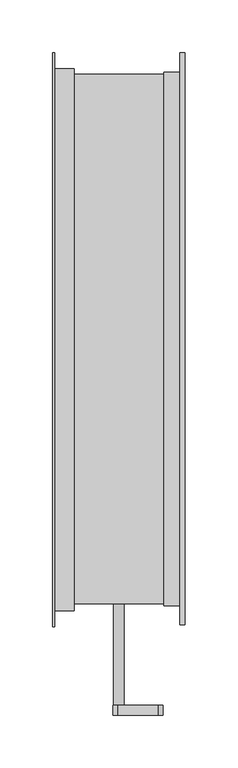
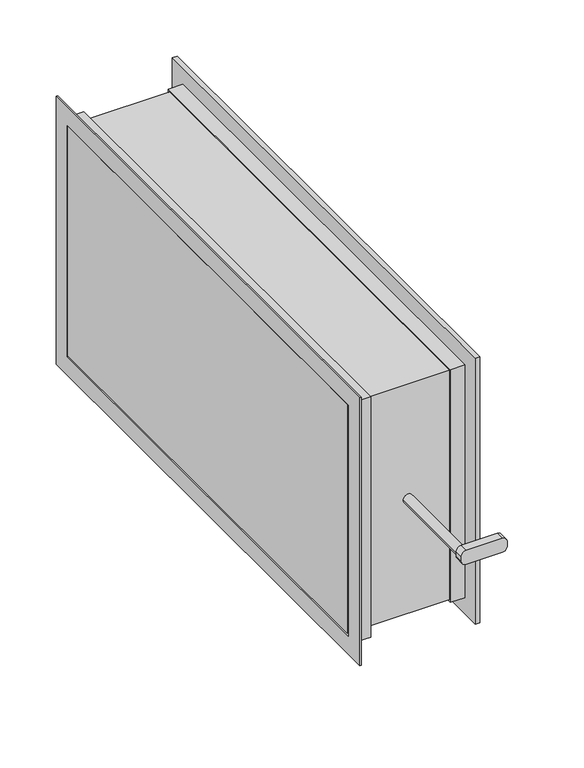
"""IFC4 building model written with IfcOpenShell, lengths in millimetres: damper geometry, АВК : АВК 500х250К8."""

import ifcopenshell
import ifcopenshell.guid

model = None  # the IFC model being written
_history = None  # IfcOwnerHistory: only IFC2X3 demands one
_inside = {}  # id of a spatial element -> (the spatial element, [elements in it])
_under = {}  # id of a project, library or spatial element -> (it, [spatial elements below it])
_declared = {}  # id of a project -> (the project, [libraries it declares])
_typed = {}  # id of a type object -> (the type object, [elements of that type])
_made_of = {}  # id of a material, layer set ... -> (it, [elements and type objects made of it])


def new_model(schema):
    """Start an empty IFC model of exactly this schema.

    Asked for "IFC4X3", IfcOpenShell would pick the latest addendum, in which some entities
    have other attributes; the version numbers below select the first issue.
    IFC2X3 requires an IfcOwnerHistory on every rooted entity: one is made here for all.
    """
    global model, _history
    if schema == "IFC4X3":
        model = ifcopenshell.file(schema_version=(4, 3, 0, 0))
    else:
        model = ifcopenshell.file(schema=schema)
    _inside.clear()
    _under.clear()
    _declared.clear()
    _typed.clear()
    _made_of.clear()
    _history = None
    if model.schema == "IFC2X3":
        org = make("IfcOrganization", Name="unknown")
        user = make(
            "IfcPersonAndOrganization",
            ThePerson=make("IfcPerson", FamilyName="unknown"),
            TheOrganization=org,
        )
        app = make(
            "IfcApplication",
            ApplicationDeveloper=org,
            Version="unknown",
            ApplicationFullName="unknown",
            ApplicationIdentifier="unknown",
        )
        _history = make(
            "IfcOwnerHistory",
            OwningUser=user,
            OwningApplication=app,
            ChangeAction="ADDED",
            CreationDate=0,
        )
    return model


def make(cls, **values):
    """One entity of the class cls with the attributes given. An attribute that is None is left unset."""
    return model.create_entity(
        cls, **{name: value for name, value in values.items() if value is not None}
    )


def rooted(cls, **values):
    """An entity with a GlobalId (a new one), such as an element, a storey or a relation."""
    return make(cls, GlobalId=ifcopenshell.guid.new(), OwnerHistory=_history, **values)


def si_unit(unit_type, name, prefix=None):
    """IfcSIUnit, for example si_unit("LENGTHUNIT", "METRE", prefix="MILLI")."""
    return make("IfcSIUnit", UnitType=unit_type, Prefix=prefix, Name=name)


def assignment(units):
    """IfcUnitAssignment: the units of a project."""
    return None if units is None else make("IfcUnitAssignment", Units=units)


def point(xyz):
    """IfcCartesianPoint."""
    return None if xyz is None else make("IfcCartesianPoint", Coordinates=xyz)


def direction(xyz):
    """IfcDirection."""
    return None if xyz is None else make("IfcDirection", DirectionRatios=xyz)


def frame(location, z_axis=None, x_axis=None):
    """IfcAxis2Placement3D, a coordinate frame: its origin and axes. An axis left out is left unset."""
    return make(
        "IfcAxis2Placement3D",
        Location=point(location),
        Axis=direction(z_axis),
        RefDirection=direction(x_axis),
    )


def origin():
    """The frame at (0, 0, 0) with its axes left unset."""
    return frame((0.0, 0.0, 0.0))


def place(relative_to, where):
    """IfcLocalPlacement: puts the frame where relative to a parent placement (None: the world)."""
    return make(
        "IfcLocalPlacement", PlacementRelTo=relative_to, RelativePlacement=where
    )


def context(
    kind, dimensions, precision=None, world=None, true_north=None, identifier=None
):
    """IfcGeometricRepresentationContext, for example the 3D "Model" context."""
    return make(
        "IfcGeometricRepresentationContext",
        ContextIdentifier=identifier,
        ContextType=kind,
        CoordinateSpaceDimension=dimensions,
        Precision=precision,
        WorldCoordinateSystem=world,
        TrueNorth=true_north,
    )


def project(units=None, contexts=None):
    """IfcProject with its units and contexts."""
    return rooted(
        "IfcProject",
        Name="project",
        RepresentationContexts=contexts,
        UnitsInContext=assignment(units),
    )


def spatial(cls, under=None, at=None, **own):
    """A site, building, storey or space (cls), placed at a placement, below another one or the project."""
    s = rooted(cls, ObjectPlacement=at, **own)
    if under is not None:
        _under.setdefault(under.id(), (under, []))[1].append(s)
    return s


def polyline(points):
    """IfcPolyline through the points."""
    return make("IfcPolyline", Points=[point(p) for p in points])


def circle_curve(where, radius):
    """IfcCircle in the frame where."""
    return make("IfcCircle", Position=where, Radius=radius)


def outline(outer, holes=None, kind="AREA"):
    """IfcArbitraryClosedProfileDef: a profile drawn as a closed curve; with holes, ...WithVoids."""
    if holes is None:
        return make("IfcArbitraryClosedProfileDef", ProfileType=kind, OuterCurve=outer)
    return make(
        "IfcArbitraryProfileDefWithVoids",
        ProfileType=kind,
        OuterCurve=outer,
        InnerCurves=holes,
    )


def extrude(swept, where, along, depth):
    """IfcExtrudedAreaSolid: the profile swept, set in the frame where, extruded along a direction by depth."""
    return make(
        "IfcExtrudedAreaSolid",
        SweptArea=swept,
        Position=where,
        ExtrudedDirection=direction(along),
        Depth=depth,
    )


def faces_of(points, faces, orient=None, outer=None):
    """IfcFace entities. A face is a list of loops; a loop is a list of indices into points, from 0.

    orient and outer hold one flag for each loop. By default every Orientation is true, the
    first loop of a face is its IfcFaceOuterBound and the others are IfcFaceBound.
    """
    made = []
    for i, loops in enumerate(faces):
        bounds = []
        for j, loop in enumerate(loops):
            is_outer = j == 0 if outer is None else outer[i][j]
            bounds.append(
                make(
                    "IfcFaceOuterBound" if is_outer else "IfcFaceBound",
                    Bound=make("IfcPolyLoop", Polygon=[points[k] for k in loop]),
                    Orientation=True if orient is None else orient[i][j],
                )
            )
        made.append(make("IfcFace", Bounds=bounds))
    return made


def faceted_brep(points, faces, orient=None, outer=None, voids=None):
    """IfcFacetedBrep: a solid bounded by flat faces; with voids (closed shells), ...WithVoids."""
    shared = [point(p) for p in points]
    hull = make("IfcClosedShell", CfsFaces=faces_of(shared, faces, orient, outer))
    if voids is None:
        return make("IfcFacetedBrep", Outer=hull)
    return make(
        "IfcFacetedBrepWithVoids",
        Outer=hull,
        Voids=[
            make(cls, CfsFaces=faces_of(shared, fs, o, b)) for cls, fs, o, b in voids
        ],
    )


def shape(context_of_items, identifier, shape_type, items):
    """IfcShapeRepresentation: the items that make up one representation, for example the "Body"."""
    return make(
        "IfcShapeRepresentation",
        ContextOfItems=context_of_items,
        RepresentationIdentifier=identifier,
        RepresentationType=shape_type,
        Items=items,
    )


def source(mapping_origin, context_of_items, identifier, shape_type, items):
    """IfcRepresentationMap: a shape defined once, which mapped items show again and again."""
    return make(
        "IfcRepresentationMap",
        MappingOrigin=mapping_origin,
        MappedRepresentation=shape(context_of_items, identifier, shape_type, items),
    )


def transform(
    local_origin,
    x_axis=None,
    y_axis=None,
    z_axis=None,
    scale=None,
    scale2=None,
    scale3=None,
    uniform=True,
):
    """IfcCartesianTransformationOperator3D, or its non-uniform kind. x_axis, y_axis, z_axis: its Axis1, 2, 3."""
    if uniform:
        return make(
            "IfcCartesianTransformationOperator3D",
            Axis1=direction(x_axis),
            Axis2=direction(y_axis),
            LocalOrigin=point(local_origin),
            Scale=scale,
            Axis3=direction(z_axis),
        )
    return make(
        "IfcCartesianTransformationOperator3DnonUniform",
        Axis1=direction(x_axis),
        Axis2=direction(y_axis),
        LocalOrigin=point(local_origin),
        Scale=scale,
        Axis3=direction(z_axis),
        Scale2=scale2,
        Scale3=scale3,
    )


def mapped(mapping_source, mapping_target):
    """IfcMappedItem: shows the shape of a source again, moved by a transform."""
    return make(
        "IfcMappedItem", MappingSource=mapping_source, MappingTarget=mapping_target
    )


def made_of(thing, what):
    """Note that an element or type object is made of a material, layer set ...; save() writes the relation."""
    if what is not None:
        _made_of.setdefault(what.id(), (what, []))[1].append(thing)
    return thing


def element(
    cls,
    number,
    at=None,
    inside=None,
    cuts=None,
    type_object=None,
    material=None,
    context=None,
    identifier="Body",
    shape_type=None,
    held_by="IfcProductDefinitionShape",
    body=None,
    shapes=None,
    **own,
):
    """One element of the class cls, such as IfcWall. Its Tag is "e" and its number.

    at: its placement. inside: the storey or other place that contains it. cuts: it is an
    opening in that element (IfcRelVoidsElement). A single representation is given by context,
    identifier, shape_type and body (its items); several are given by shapes. held_by: the class
    of the entity that holds the representations. save() writes the other relations.
    """
    e = rooted(cls, Tag="e%d" % number, ObjectPlacement=at, **own)
    if body is not None:
        shapes = [shape(context, identifier, shape_type, body)]
    if shapes is not None:
        e.Representation = make(held_by, Representations=shapes)
    if inside is not None:
        _inside.setdefault(inside.id(), (inside, []))[1].append(e)
    if cuts is not None:
        rooted(
            "IfcRelVoidsElement", RelatingBuildingElement=cuts, RelatedOpeningElement=e
        )
    if type_object is not None:
        _typed.setdefault(type_object.id(), (type_object, []))[1].append(e)
    return made_of(e, material)


def aggregate(whole, parts):
    """IfcRelAggregates: a whole, such as a stair, and the parts it consists of."""
    return rooted("IfcRelAggregates", RelatingObject=whole, RelatedObjects=parts)


def save(model, path):
    """Write the relations noted so far, then the file.

    IfcRelAggregates (storeys below a building ...), IfcRelContainedInSpatialStructure (elements
    in a storey), IfcRelDefinesByType, IfcRelAssociatesMaterial and IfcRelDeclares: one each for
    every whole, place, type object, material and project.
    """
    for whole, parts in _under.values():
        aggregate(whole, parts)
    for where, things in _inside.values():
        rooted(
            "IfcRelContainedInSpatialStructure",
            RelatedElements=things,
            RelatingStructure=where,
        )
    for kind, things in _typed.values():
        rooted("IfcRelDefinesByType", RelatedObjects=things, RelatingType=kind)
    for what, things in _made_of.values():
        rooted("IfcRelAssociatesMaterial", RelatedObjects=things, RelatingMaterial=what)
    for by, libraries in _declared.values():
        rooted("IfcRelDeclares", RelatingContext=by, RelatedDefinitions=libraries)
    model.write(path)


def plane_surface(at):
    """IfcPlane: the flat surface through the origin of the frame at, square to its z axis."""
    return make("IfcPlane", Position=at)


def cylinder_surface(at, radius):
    """IfcCylindricalSurface: all points at the distance radius from the z axis of the frame at."""
    return make("IfcCylindricalSurface", Position=at, Radius=radius)


def advanced_brep(points, edges, surfaces, faces):
    """IfcAdvancedBrep: a solid bounded by faces that lie on surfaces and meet in shared edges.

    An edge is (start, end): straight between two places in points (the first is 0);
    or (start, end, curve); or (start, end, curve, False) where it runs against its curve.
    A face is (place in surfaces, loops), or (place, loops, False) where it looks against
    its surface's normal. A loop lists edges by number (the first is 1), with a minus sign
    where the edge is run from its end to its start. The first loop is the outer one.
    """
    corners = [point(p) for p in points]
    vertices = [make("IfcVertexPoint", VertexGeometry=c) for c in corners]
    made = []
    for start, end, *more in edges:
        made.append(
            make(
                "IfcEdgeCurve",
                EdgeStart=vertices[start],
                EdgeEnd=vertices[end],
                EdgeGeometry=more[0] if more else make("IfcPolyline", Points=[corners[start], corners[end]]),
                SameSense=more[1] if len(more) > 1 else True,
            )
        )
    hull = []
    for where, loops, *sense in faces:
        bounds = []
        for j, loop in enumerate(loops):
            ring = [make("IfcOrientedEdge", EdgeElement=made[abs(k) - 1], Orientation=k > 0) for k in loop]
            bounds.append(
                make(
                    "IfcFaceOuterBound" if j == 0 else "IfcFaceBound",
                    Bound=make("IfcEdgeLoop", EdgeList=ring),
                    Orientation=True,
                )
            )
        hull.append(make("IfcAdvancedFace", Bounds=bounds, FaceSurface=surfaces[where], SameSense=sense[0] if sense else True))
    return make("IfcAdvancedBrep", Outer=make("IfcClosedShell", CfsFaces=hull))


def damper_914ab716(model_context):
    return source(origin(), model_context, "Body", "SolidModel", [
        faceted_brep([(-62.5, -251.8145436, 125.0), (-42.5, -251.8145436, 125.0), (-42.5, -251.8145436, -126.8145436), (-62.5, -251.8145436, -126.8145436), (-60.6854564, -271.8145436, 145.0), (-62.5, -271.8145436, 145.0), (-62.5, -271.8145436, -146.8145436), (-60.6854564, -271.8145436, -146.8145436), (-42.5, -256.8145436, 130.0), (-60.6854564, -256.8145436, 130.0), (-60.6854564, -256.8145436, -131.8145436), (-42.5, -256.8145436, -131.8145436), (-42.5, 250.0, -126.8145436), (-62.5, 250.0, -126.8145436), (-62.5, 270.0, -146.8145436), (-60.6854564, 270.0, -146.8145436), (-60.6854564, 255.0, -131.8145436), (-42.5, 255.0, -131.8145436), (-42.5, 250.0, 125.0), (-62.5, 250.0, 125.0), (-62.5, 270.0, 145.0), (-60.6854564, 270.0, 145.0), (-60.6854564, 255.0, 130.0), (-42.5, 255.0, 130.0)], [[[0, 1, 2, 3]], [[4, 5, 6, 7]], [[8, 9, 10, 11]], [[3, 2, 12, 13]], [[7, 6, 14, 15]], [[11, 10, 16, 17]], [[13, 12, 18, 19]], [[15, 14, 20, 21]], [[17, 16, 22, 23]], [[19, 18, 1, 0]], [[5, 20, 14, 6], [3, 13, 19, 0]], [[21, 20, 5, 4]], [[7, 15, 21, 4], [9, 22, 16, 10]], [[23, 22, 9, 8]], [[11, 17, 23, 8], [1, 18, 12, 2]]]),
        faceted_brep([(42.5, -250.0, -125.0), (62.5, -250.0, -125.0), (62.5, 250.0, -125.0), (42.5, 250.0, -125.0), (57.5, -251.8145436, -126.8145436), (42.5, -251.8145436, -126.8145436), (42.5, 251.8145436, -126.8145436), (57.5, 251.8145436, -126.8145436), (62.5, -270.0, -145.0), (57.5, -270.0, -145.0), (57.5, 270.0, -145.0), (62.5, 270.0, -145.0), (62.5, 250.0, 125.0), (42.5, 250.0, 125.0), (42.5, 251.8145436, 126.8145436), (57.5, 251.8145436, 126.8145436), (57.5, 270.0, 145.0), (62.5, 270.0, 145.0), (62.5, -250.0, 125.0), (42.5, -250.0, 125.0), (42.5, -251.8145436, 126.8145436), (57.5, -251.8145436, 126.8145436), (57.5, -270.0, 145.0), (62.5, -270.0, 145.0)], [[[0, 1, 2, 3]], [[4, 5, 6, 7]], [[8, 9, 10, 11]], [[3, 2, 12, 13]], [[7, 6, 14, 15]], [[11, 10, 16, 17]], [[13, 12, 18, 19]], [[15, 14, 20, 21]], [[17, 16, 22, 23]], [[11, 17, 23, 8], [1, 18, 12, 2]], [[19, 18, 1, 0]], [[5, 20, 14, 6], [3, 13, 19, 0]], [[21, 20, 5, 4]], [[9, 22, 16, 10], [7, 15, 21, 4]], [[23, 22, 9, 8]]]),
        advanced_brep(
        [(36.6666667, -355.0, 7.5), (-0.705505, -355.0, 7.5), (-5.705505, -355.0, 2.5), (-5.705505, -355.0, -2.5), (-0.705505, -355.0, -7.5), (36.6666667, -355.0, -7.5), (41.6666667, -355.0, -2.5), (41.6666667, -355.0, 2.5), (-5.0, -250.0, 0.0), (5.0, -250.0, 0.0), (5.0, -345.8913959, 0.0), (-5.0, -345.8913959, 0.0), (36.6666667, -345.8913959, 7.5), (41.6666667, -345.8913959, 2.5), (41.6666667, -345.8913959, -2.5), (36.6666667, -345.8913959, -7.5), (-0.705505, -345.8913959, -7.5), (-5.705505, -345.8913959, -2.5), (-5.705505, -345.8913959, 2.5), (-0.705505, -345.8913959, 7.5)],
        [
            (0, 1),
            (1, 2, circle_curve(frame((-0.705505, -355.0, 2.5), z_axis=(0.0, -1.0, 0.0), x_axis=(0.0, 0.0, -1.0)), 5.0)),
            (2, 3),
            (3, 4, circle_curve(frame((-0.705505, -355.0, -2.5), z_axis=(0.0, -1.0, 0.0), x_axis=(0.0, 0.0, -1.0)), 5.0)),
            (4, 5),
            (5, 6, circle_curve(frame((36.6666667, -355.0, -2.5), z_axis=(0.0, -1.0, 0.0), x_axis=(0.0, 0.0, -1.0)), 5.0)),
            (6, 7),
            (7, 0, circle_curve(frame((36.6666667, -355.0, 2.5), z_axis=(0.0, -1.0, 0.0), x_axis=(0.0, 0.0, -1.0)), 5.0)),
            (8, 9, circle_curve(frame((0.0, -250.0, 0.0), z_axis=(0.0, 1.0, 0.0), x_axis=(1.0, 0.0, 0.0)), 5.0)),
            (9, 8, circle_curve(frame((0.0, -250.0, 0.0), z_axis=(0.0, 1.0, 0.0), x_axis=(1.0, 0.0, 0.0)), 5.0)),
            (9, 10),
            (10, 11, circle_curve(frame((0.0, -345.8913959, 0.0), z_axis=(0.0, 1.0, 0.0), x_axis=(1.0, 0.0, 0.0)), 5.0)),
            (11, 8),
            (11, 10, circle_curve(frame((0.0, -345.8913959, 0.0), z_axis=(0.0, 1.0, 0.0), x_axis=(1.0, 0.0, 0.0)), 5.0)),
            (12, 13, circle_curve(frame((36.6666667, -345.8913959, 2.5), z_axis=(0.0, 1.0, 0.0), x_axis=(0.0, 0.0, -1.0)), 5.0)),
            (13, 14),
            (14, 15, circle_curve(frame((36.6666667, -345.8913959, -2.5), z_axis=(0.0, 1.0, 0.0), x_axis=(0.0, 0.0, -1.0)), 5.0)),
            (15, 16),
            (16, 17, circle_curve(frame((-0.705505, -345.8913959, -2.5), z_axis=(0.0, 1.0, 0.0), x_axis=(0.0, 0.0, -1.0)), 5.0)),
            (17, 18),
            (18, 19, circle_curve(frame((-0.705505, -345.8913959, 2.5), z_axis=(0.0, 1.0, 0.0), x_axis=(0.0, 0.0, -1.0)), 5.0)),
            (19, 12),
            (19, 1),
            (0, 12),
            (15, 5),
            (4, 16),
            (18, 2),
            (17, 3),
            (14, 6),
            (13, 7),
        ],
        [
            plane_surface(frame((5.0, -355.0, 0.0), z_axis=(0.0, -1.0, 0.0), x_axis=(0.0, 0.0, 1.0))),
            plane_surface(frame((5.0, -250.0, 0.0), z_axis=(0.0, 1.0, 0.0), x_axis=(0.0, 0.0, -1.0))),
            cylinder_surface(frame((0.0, -250.0, 0.0), z_axis=(0.0, -1.0, 0.0), x_axis=(1.0, 0.0, 0.0)), 5.0),
            plane_surface(frame((-0.705505, -345.8913959, 7.5), z_axis=(0.0, 1.0, 0.0), x_axis=(1.0, 0.0, 0.0))),
            plane_surface(frame((36.6666667, -355.0, 7.5), z_axis=(0.0, 0.0, 1.0), x_axis=(0.0, 1.0, 0.0))),
            plane_surface(frame((-0.705505, -355.0, -7.5), z_axis=(0.0, 0.0, -1.0), x_axis=(0.0, 1.0, 0.0))),
            cylinder_surface(frame((-0.705505, -345.8913959, 2.5), z_axis=(0.0, -1.0, 0.0), x_axis=(0.0, 0.0, -1.0)), 5.0),
            plane_surface(frame((-5.705505, -355.0, 2.5), z_axis=(-1.0, 0.0, 0.0), x_axis=(0.0, 1.0, 0.0))),
            cylinder_surface(frame((-0.705505, -345.8913959, -2.5), z_axis=(0.0, -1.0, 0.0), x_axis=(0.0, 0.0, -1.0)), 5.0),
            cylinder_surface(frame((36.6666667, -345.8913959, -2.5), z_axis=(0.0, -1.0, 0.0), x_axis=(0.0, 0.0, -1.0)), 5.0),
            plane_surface(frame((41.6666667, -355.0, -2.5), z_axis=(1.0, 0.0, 0.0), x_axis=(0.0, 1.0, 0.0))),
            cylinder_surface(frame((36.6666667, -345.8913959, 2.5), z_axis=(0.0, -1.0, 0.0), x_axis=(0.0, 0.0, -1.0)), 5.0),
        ],
        [
            (0, [[1, 2, 3, 4, 5, 6, 7, 8]]),
            (1, [[9, 10]]),
            (2, [[-10, 11, 12, 13]]),
            (2, [[-9, -13, 14, -11]]),
            (3, [[15, 16, 17, 18, 19, 20, 21, 22], [-12, -14]]),
            (4, [[-22, 23, -1, 24]]),
            (5, [[-18, 25, -5, 26]]),
            (6, [[-21, 27, -2, -23]]),
            (7, [[-20, 28, -3, -27]]),
            (8, [[-19, -26, -4, -28]]),
            (9, [[-17, 29, -6, -25]]),
            (10, [[-16, 30, -7, -29]]),
            (11, [[-15, -24, -8, -30]]),
        ],
    ),
        extrude(outline(polyline([(62.5, 250.0), (62.5, -250.0), (-62.5, -250.0), (-62.5, 250.0), (62.5, 250.0)])), frame((0.0, 0.0, -125.0), z_axis=(0.0, 0.0, 1.0), x_axis=(1.0, 0.0, 0.0)), (0.0, 0.0, 1.0), 250.0),
    ])


if __name__ == "__main__":
    model = new_model("IFC4")
    model_context = context("Model", 3, world=origin())
    ifc_project = project(units=[si_unit("LENGTHUNIT", "METRE", prefix="MILLI")], contexts=[model_context])
    site = spatial("IfcSite", under=ifc_project)
    building = spatial("IfcBuilding", under=site)
    placement = place(None, origin())
    damper_shape = damper_914ab716(model_context)
    element("IfcDamper", 1, ObjectType="АВК : АВК 500х250К8", at=placement, inside=building, context=model_context, shape_type="MappedRepresentation", body=[
        mapped(damper_shape, transform((0.0, 0.0, 0.0), x_axis=(1.0, 0.0, 0.0), y_axis=(0.0, 1.0, 0.0), z_axis=(0.0, 0.0, 1.0))),
    ])
    save(model, "model.ifc")
